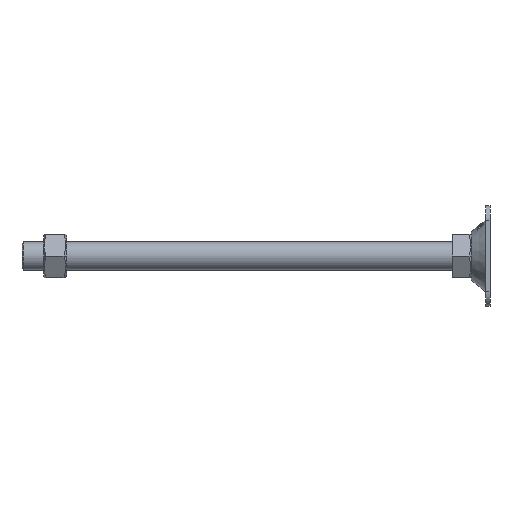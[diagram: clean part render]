
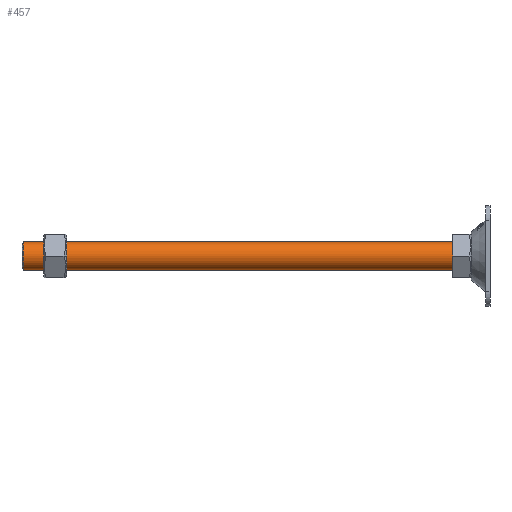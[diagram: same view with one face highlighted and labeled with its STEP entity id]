
A CAD part, left-side view. The second image highlights one B-rep face of the part: STEP entity #457.
In plain terms, the highlighted cylindrical face has radius 10 mm (diameter 20 mm), a partial arc.
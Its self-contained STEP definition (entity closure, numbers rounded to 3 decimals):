
#66 = ORIENTED_EDGE ( 'NONE', *, *, #2649, .T. ) ;
#245 = ORIENTED_EDGE ( 'NONE', *, *, #5530, .T. ) ;
#376 = EDGE_CURVE ( 'NONE', #3632, #3111, #1001, .T. ) ;
#457 = ADVANCED_FACE ( 'NONE', ( #4220 ), #1874, .T. ) ;
#469 = AXIS2_PLACEMENT_3D ( 'NONE', #5634, #490, #1406 ) ;
#490 = DIRECTION ( 'NONE',  ( 0., -1., 0. ) ) ;
#612 = EDGE_LOOP ( 'NONE', ( #5821, #245, #66, #5092 ) ) ;
#626 = VECTOR ( 'NONE', #3374, 1000. ) ;
#700 = VERTEX_POINT ( 'NONE', #3409 ) ;
#876 = VERTEX_POINT ( 'NONE', #5706 ) ;
#1001 = LINE ( 'NONE', #1816, #1047 ) ;
#1047 = VECTOR ( 'NONE', #2891, 1000. ) ;
#1208 = DIRECTION ( 'NONE',  ( 0., 1., 0. ) ) ;
#1211 = CIRCLE ( 'NONE', #4659, 10. ) ;
#1406 = DIRECTION ( 'NONE',  ( 0., 0., -1. ) ) ;
#1764 = DIRECTION ( 'NONE',  ( 0., 0., -1. ) ) ;
#1816 = CARTESIAN_POINT ( 'NONE',  ( 0., 11., 10. ) ) ;
#1874 = CYLINDRICAL_SURFACE ( 'NONE', #469, 10. ) ;
#1893 = CARTESIAN_POINT ( 'NONE',  ( 0., 312., 0. ) ) ;
#2439 = CARTESIAN_POINT ( 'NONE',  ( 0., 11., -10. ) ) ;
#2572 = DIRECTION ( 'NONE',  ( 0., 0., 1. ) ) ;
#2649 = EDGE_CURVE ( 'NONE', #876, #700, #6083, .T. ) ;
#2891 = DIRECTION ( 'NONE',  ( 0., -1., 0. ) ) ;
#3111 = VERTEX_POINT ( 'NONE', #4700 ) ;
#3223 = EDGE_CURVE ( 'NONE', #700, #3111, #1211, .T. ) ;
#3374 = DIRECTION ( 'NONE',  ( 0., -1., 0. ) ) ;
#3409 = CARTESIAN_POINT ( 'NONE',  ( 0., 13., -10. ) ) ;
#3632 = VERTEX_POINT ( 'NONE', #5877 ) ;
#3775 = DIRECTION ( 'NONE',  ( 0., -1., 0. ) ) ;
#3879 = AXIS2_PLACEMENT_3D ( 'NONE', #1893, #3775, #1764 ) ;
#4220 = FACE_OUTER_BOUND ( 'NONE', #612, .T. ) ;
#4513 = CARTESIAN_POINT ( 'NONE',  ( 0., 13., 0. ) ) ;
#4659 = AXIS2_PLACEMENT_3D ( 'NONE', #4513, #1208, #2572 ) ;
#4700 = CARTESIAN_POINT ( 'NONE',  ( 0., 13., 10. ) ) ;
#5092 = ORIENTED_EDGE ( 'NONE', *, *, #3223, .T. ) ;
#5530 = EDGE_CURVE ( 'NONE', #3632, #876, #5750, .T. ) ;
#5634 = CARTESIAN_POINT ( 'NONE',  ( 0., 11., 0. ) ) ;
#5706 = CARTESIAN_POINT ( 'NONE',  ( 0., 312., -10. ) ) ;
#5750 = CIRCLE ( 'NONE', #3879, 10. ) ;
#5821 = ORIENTED_EDGE ( 'NONE', *, *, #376, .F. ) ;
#5877 = CARTESIAN_POINT ( 'NONE',  ( 0., 312., 10. ) ) ;
#6083 = LINE ( 'NONE', #2439, #626 ) ;
